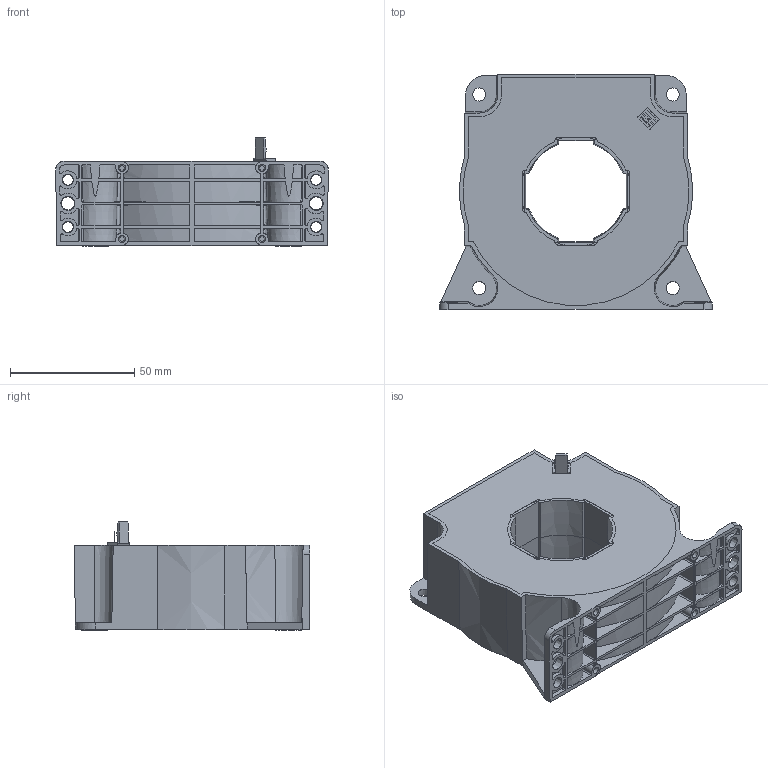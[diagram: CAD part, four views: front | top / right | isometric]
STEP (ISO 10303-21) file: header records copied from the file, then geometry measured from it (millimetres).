
FILE_DESCRIPTION((''),'2;1');
FILE_NAME('Z:\CAPM\Capteur effet hall\Produits\Gamme de produit standard\Fichier comerciaux\MSA1005.stp','2012-02-17T11:47:16',('lm'),(''),'Autodesk Inventor 2012','Autodesk Inventor 2012','');
FILE_SCHEMA(('AUTOMOTIVE_DESIGN { 1 0 10303 214 1 1 1 1 }'));
Length unit declared in the file: millimetre
Products named in the file (1): MSA1005-S-00001_Enveloppe_1
Bounding box: 109.88 x 95 x 43.8 mm (x, y, z)
Surface area: 43634.8 mm2 (no closed solid volume)
Topology: 0 solids, 18 shells, 380 faces, 1540 edges, 1195 vertices
Faces by surface type: plane 195, cylinder 115, cone 36, bspline 34
Full cylindrical faces by diameter (mm): 5.3 x1, 77.6 x1
Entity records: 18881 total; most frequent: CARTESIAN_POINT 6646, ORIENTED_EDGE 2530, DIRECTION 2147, EDGE_CURVE 1523, VERTEX_POINT 1189, VECTOR 797, LINE 797, AXIS2_PLACEMENT_3D 675
